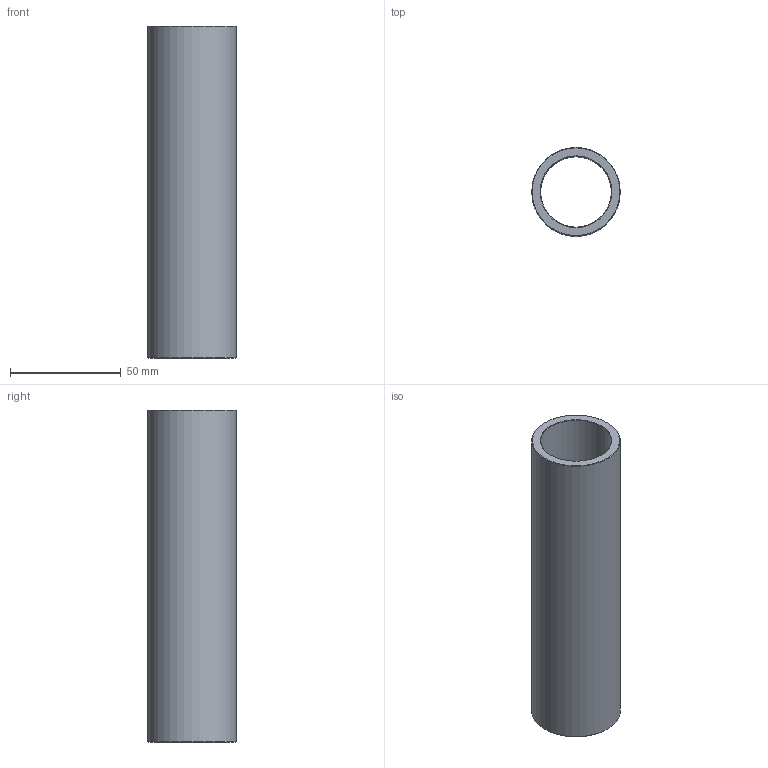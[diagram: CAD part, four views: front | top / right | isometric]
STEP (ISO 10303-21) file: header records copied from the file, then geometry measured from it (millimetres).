
FILE_DESCRIPTION(('STEP AP203'),'1');
FILE_NAME('C:/Users/Rodrigo/Desktop/GA4.032.150-1.step','2016-11-07T17:23:12',(' '),(' '),'Spatial InterOp 3D',' ',' ');
FILE_SCHEMA(('CONFIG_CONTROL_DESIGN'));
Length unit declared in the file: millimetre
Products named in the file (1): 1
Bounding box: 40 x 40 x 150 mm (x, y, z)
Volume: 67849.4 mm3; surface area: 34781 mm2
Topology: 1 solids, 1 shells, 8 faces, 14 edges, 8 vertices
Faces by surface type: cone 4, cylinder 2, plane 2
Full cylindrical faces by diameter (mm): 32 x1, 40 x1
Entity records: 212 total; most frequent: DIRECTION 34, CARTESIAN_POINT 25, AXIS2_PLACEMENT_3D 17, EDGE_LOOP 16, ORIENTED_EDGE 16, FACE_OUTER_BOUND 10, ADVANCED_FACE 8, EDGE_CURVE 8
